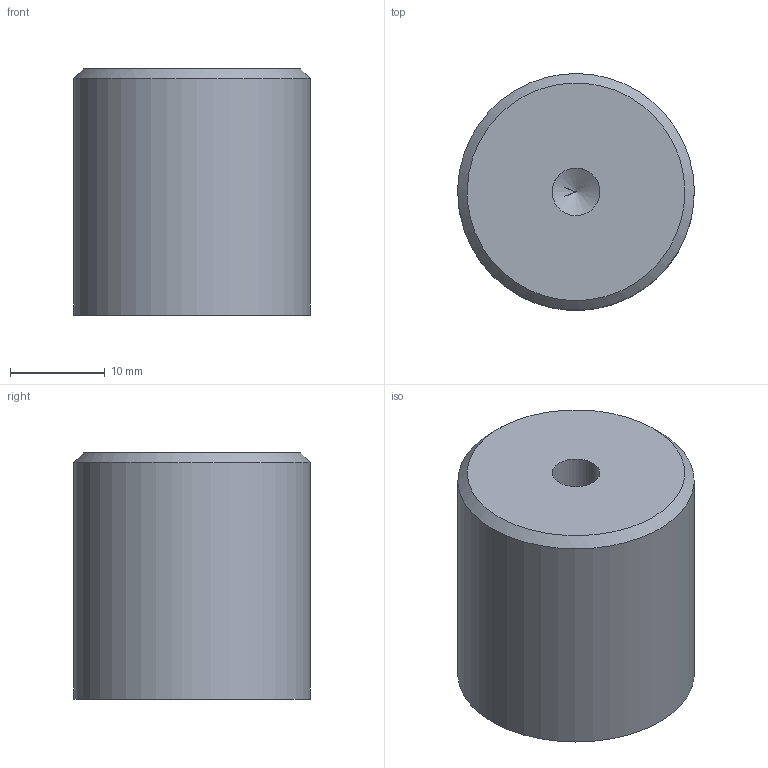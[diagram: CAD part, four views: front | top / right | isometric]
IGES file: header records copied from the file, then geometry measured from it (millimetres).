
Global section: file name: PMH-1-25x26; native system: unknown; preprocessor: unknown; author: unknown; organization: unknown; date: 20221128.165100; units: millimetre
Bounding box: 25 x 24.99 x 26 mm (x, y, z)
Volume: 12587.7 mm3; surface area: 3099.8 mm2
Topology: 1 solids, 1 shells, 10 faces, 18 edges, 12 vertices
Faces by surface type: bspline 10
